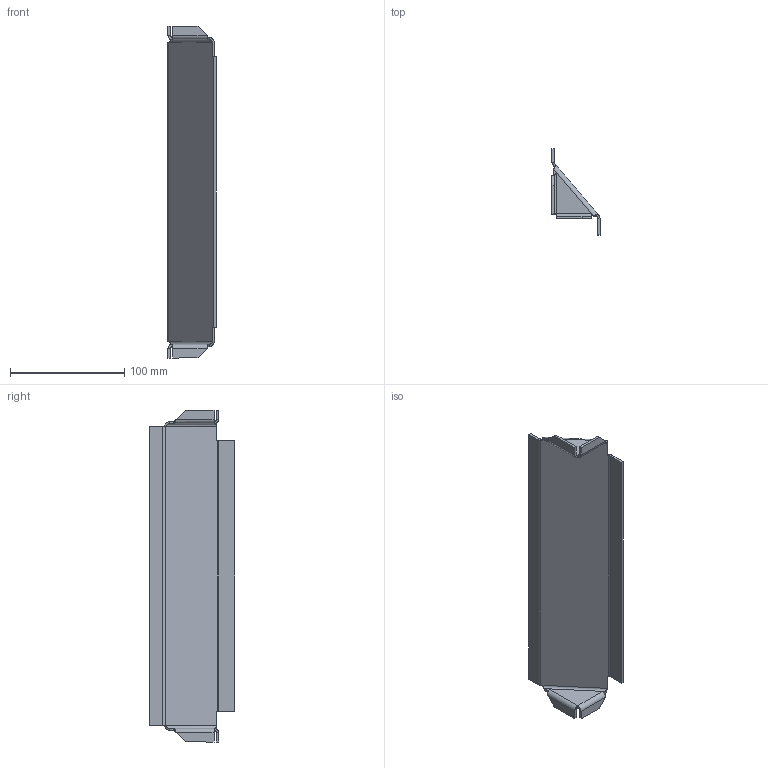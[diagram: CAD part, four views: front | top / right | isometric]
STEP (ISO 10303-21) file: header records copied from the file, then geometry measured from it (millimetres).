
FILE_DESCRIPTION (( 'STEP AP214' ), '1' );
FILE_NAME ('Díl1.step', '2013-12-06T08:44:43', ( 'STS Prachatice' ), ( '' ), 'SwSTEP 2.0', 'SolidWorks 2011', '' );
FILE_SCHEMA (( 'AUTOMOTIVE_DESIGN' ));
Length unit declared in the file: millimetre
Products named in the file (1): D璱1
Bounding box: 42 x 75 x 290 mm (x, y, z)
Volume: 52261.9 mm3; surface area: 53934.8 mm2
Topology: 1 solids, 1 shells, 80 faces, 170 edges, 92 vertices
Faces by surface type: plane 56, cylinder 16, bspline 8
Entity records: 2552 total; most frequent: CARTESIAN_POINT 879, ORIENTED_EDGE 340, DIRECTION 316, EDGE_CURVE 170, VECTOR 138, LINE 138, VERTEX_POINT 92, AXIS2_PLACEMENT_3D 89
